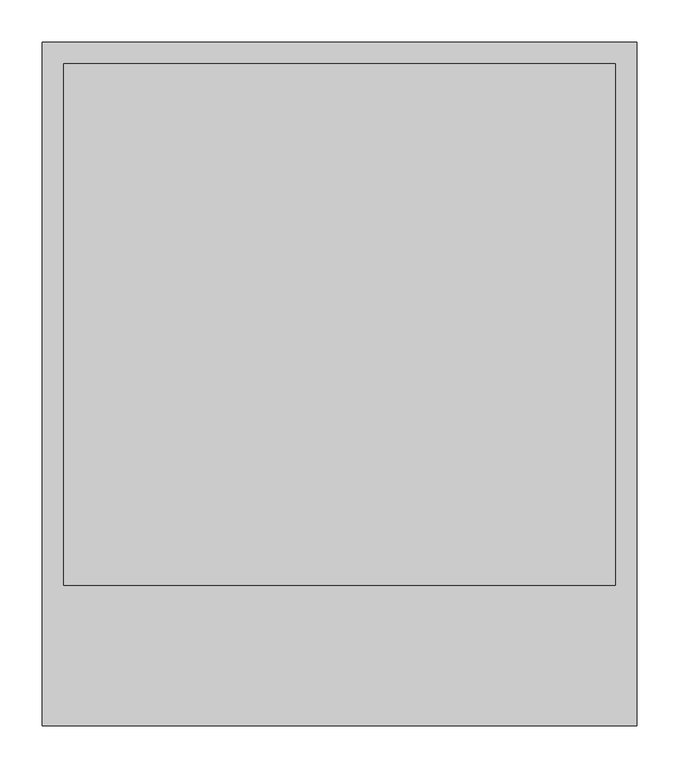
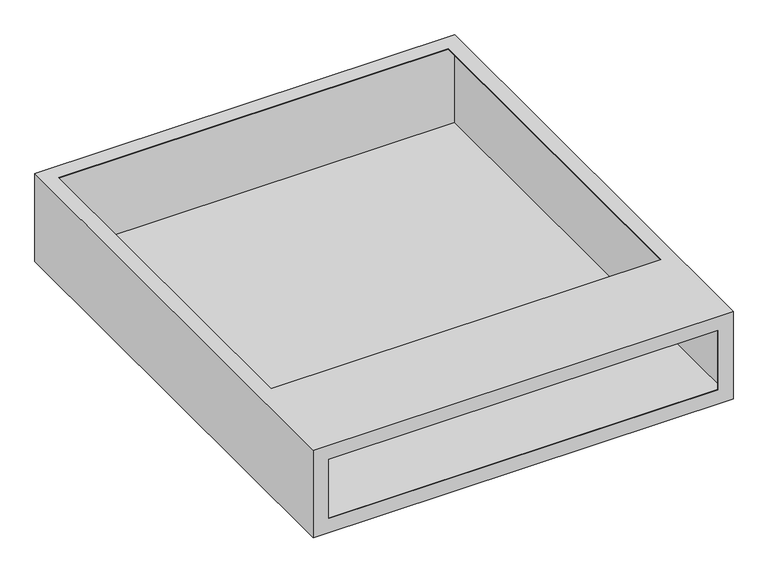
"""IFC4 building model written with IfcOpenShell, lengths in millimetres: valve geometry, USYSTEMS_Коллекторный шкаф_Накладной : 705x160 мм."""

import ifcopenshell
import ifcopenshell.guid

model = None  # the IFC model being written
_history = None  # IfcOwnerHistory: only IFC2X3 demands one
_inside = {}  # id of a spatial element -> (the spatial element, [elements in it])
_under = {}  # id of a project, library or spatial element -> (it, [spatial elements below it])
_declared = {}  # id of a project -> (the project, [libraries it declares])
_typed = {}  # id of a type object -> (the type object, [elements of that type])
_made_of = {}  # id of a material, layer set ... -> (it, [elements and type objects made of it])


def new_model(schema):
    """Start an empty IFC model of exactly this schema.

    Asked for "IFC4X3", IfcOpenShell would pick the latest addendum, in which some entities
    have other attributes; the version numbers below select the first issue.
    IFC2X3 requires an IfcOwnerHistory on every rooted entity: one is made here for all.
    """
    global model, _history
    if schema == "IFC4X3":
        model = ifcopenshell.file(schema_version=(4, 3, 0, 0))
    else:
        model = ifcopenshell.file(schema=schema)
    _inside.clear()
    _under.clear()
    _declared.clear()
    _typed.clear()
    _made_of.clear()
    _history = None
    if model.schema == "IFC2X3":
        org = make("IfcOrganization", Name="unknown")
        user = make(
            "IfcPersonAndOrganization",
            ThePerson=make("IfcPerson", FamilyName="unknown"),
            TheOrganization=org,
        )
        app = make(
            "IfcApplication",
            ApplicationDeveloper=org,
            Version="unknown",
            ApplicationFullName="unknown",
            ApplicationIdentifier="unknown",
        )
        _history = make(
            "IfcOwnerHistory",
            OwningUser=user,
            OwningApplication=app,
            ChangeAction="ADDED",
            CreationDate=0,
        )
    return model


def make(cls, **values):
    """One entity of the class cls with the attributes given. An attribute that is None is left unset."""
    return model.create_entity(
        cls, **{name: value for name, value in values.items() if value is not None}
    )


def rooted(cls, **values):
    """An entity with a GlobalId (a new one), such as an element, a storey or a relation."""
    return make(cls, GlobalId=ifcopenshell.guid.new(), OwnerHistory=_history, **values)


def si_unit(unit_type, name, prefix=None):
    """IfcSIUnit, for example si_unit("LENGTHUNIT", "METRE", prefix="MILLI")."""
    return make("IfcSIUnit", UnitType=unit_type, Prefix=prefix, Name=name)


def assignment(units):
    """IfcUnitAssignment: the units of a project."""
    return None if units is None else make("IfcUnitAssignment", Units=units)


def point(xyz):
    """IfcCartesianPoint."""
    return None if xyz is None else make("IfcCartesianPoint", Coordinates=xyz)


def direction(xyz):
    """IfcDirection."""
    return None if xyz is None else make("IfcDirection", DirectionRatios=xyz)


def frame(location, z_axis=None, x_axis=None):
    """IfcAxis2Placement3D, a coordinate frame: its origin and axes. An axis left out is left unset."""
    return make(
        "IfcAxis2Placement3D",
        Location=point(location),
        Axis=direction(z_axis),
        RefDirection=direction(x_axis),
    )


def origin():
    """The frame at (0, 0, 0) with its axes left unset."""
    return frame((0.0, 0.0, 0.0))


def place(relative_to, where):
    """IfcLocalPlacement: puts the frame where relative to a parent placement (None: the world)."""
    return make(
        "IfcLocalPlacement", PlacementRelTo=relative_to, RelativePlacement=where
    )


def context(
    kind, dimensions, precision=None, world=None, true_north=None, identifier=None
):
    """IfcGeometricRepresentationContext, for example the 3D "Model" context."""
    return make(
        "IfcGeometricRepresentationContext",
        ContextIdentifier=identifier,
        ContextType=kind,
        CoordinateSpaceDimension=dimensions,
        Precision=precision,
        WorldCoordinateSystem=world,
        TrueNorth=true_north,
    )


def project(units=None, contexts=None):
    """IfcProject with its units and contexts."""
    return rooted(
        "IfcProject",
        Name="project",
        RepresentationContexts=contexts,
        UnitsInContext=assignment(units),
    )


def spatial(cls, under=None, at=None, **own):
    """A site, building, storey or space (cls), placed at a placement, below another one or the project."""
    s = rooted(cls, ObjectPlacement=at, **own)
    if under is not None:
        _under.setdefault(under.id(), (under, []))[1].append(s)
    return s


def faces_of(points, faces, orient=None, outer=None):
    """IfcFace entities. A face is a list of loops; a loop is a list of indices into points, from 0.

    orient and outer hold one flag for each loop. By default every Orientation is true, the
    first loop of a face is its IfcFaceOuterBound and the others are IfcFaceBound.
    """
    made = []
    for i, loops in enumerate(faces):
        bounds = []
        for j, loop in enumerate(loops):
            is_outer = j == 0 if outer is None else outer[i][j]
            bounds.append(
                make(
                    "IfcFaceOuterBound" if is_outer else "IfcFaceBound",
                    Bound=make("IfcPolyLoop", Polygon=[points[k] for k in loop]),
                    Orientation=True if orient is None else orient[i][j],
                )
            )
        made.append(make("IfcFace", Bounds=bounds))
    return made


def faceted_brep(points, faces, orient=None, outer=None, voids=None):
    """IfcFacetedBrep: a solid bounded by flat faces; with voids (closed shells), ...WithVoids."""
    shared = [point(p) for p in points]
    hull = make("IfcClosedShell", CfsFaces=faces_of(shared, faces, orient, outer))
    if voids is None:
        return make("IfcFacetedBrep", Outer=hull)
    return make(
        "IfcFacetedBrepWithVoids",
        Outer=hull,
        Voids=[
            make(cls, CfsFaces=faces_of(shared, fs, o, b)) for cls, fs, o, b in voids
        ],
    )


def shape(context_of_items, identifier, shape_type, items):
    """IfcShapeRepresentation: the items that make up one representation, for example the "Body"."""
    return make(
        "IfcShapeRepresentation",
        ContextOfItems=context_of_items,
        RepresentationIdentifier=identifier,
        RepresentationType=shape_type,
        Items=items,
    )


def source(mapping_origin, context_of_items, identifier, shape_type, items):
    """IfcRepresentationMap: a shape defined once, which mapped items show again and again."""
    return make(
        "IfcRepresentationMap",
        MappingOrigin=mapping_origin,
        MappedRepresentation=shape(context_of_items, identifier, shape_type, items),
    )


def transform(
    local_origin,
    x_axis=None,
    y_axis=None,
    z_axis=None,
    scale=None,
    scale2=None,
    scale3=None,
    uniform=True,
):
    """IfcCartesianTransformationOperator3D, or its non-uniform kind. x_axis, y_axis, z_axis: its Axis1, 2, 3."""
    if uniform:
        return make(
            "IfcCartesianTransformationOperator3D",
            Axis1=direction(x_axis),
            Axis2=direction(y_axis),
            LocalOrigin=point(local_origin),
            Scale=scale,
            Axis3=direction(z_axis),
        )
    return make(
        "IfcCartesianTransformationOperator3DnonUniform",
        Axis1=direction(x_axis),
        Axis2=direction(y_axis),
        LocalOrigin=point(local_origin),
        Scale=scale,
        Axis3=direction(z_axis),
        Scale2=scale2,
        Scale3=scale3,
    )


def mapped(mapping_source, mapping_target):
    """IfcMappedItem: shows the shape of a source again, moved by a transform."""
    return make(
        "IfcMappedItem", MappingSource=mapping_source, MappingTarget=mapping_target
    )


def made_of(thing, what):
    """Note that an element or type object is made of a material, layer set ...; save() writes the relation."""
    if what is not None:
        _made_of.setdefault(what.id(), (what, []))[1].append(thing)
    return thing


def element(
    cls,
    number,
    at=None,
    inside=None,
    cuts=None,
    type_object=None,
    material=None,
    context=None,
    identifier="Body",
    shape_type=None,
    held_by="IfcProductDefinitionShape",
    body=None,
    shapes=None,
    **own,
):
    """One element of the class cls, such as IfcWall. Its Tag is "e" and its number.

    at: its placement. inside: the storey or other place that contains it. cuts: it is an
    opening in that element (IfcRelVoidsElement). A single representation is given by context,
    identifier, shape_type and body (its items); several are given by shapes. held_by: the class
    of the entity that holds the representations. save() writes the other relations.
    """
    e = rooted(cls, Tag="e%d" % number, ObjectPlacement=at, **own)
    if body is not None:
        shapes = [shape(context, identifier, shape_type, body)]
    if shapes is not None:
        e.Representation = make(held_by, Representations=shapes)
    if inside is not None:
        _inside.setdefault(inside.id(), (inside, []))[1].append(e)
    if cuts is not None:
        rooted(
            "IfcRelVoidsElement", RelatingBuildingElement=cuts, RelatedOpeningElement=e
        )
    if type_object is not None:
        _typed.setdefault(type_object.id(), (type_object, []))[1].append(e)
    return made_of(e, material)


def aggregate(whole, parts):
    """IfcRelAggregates: a whole, such as a stair, and the parts it consists of."""
    return rooted("IfcRelAggregates", RelatingObject=whole, RelatedObjects=parts)


def save(model, path):
    """Write the relations noted so far, then the file.

    IfcRelAggregates (storeys below a building ...), IfcRelContainedInSpatialStructure (elements
    in a storey), IfcRelDefinesByType, IfcRelAssociatesMaterial and IfcRelDeclares: one each for
    every whole, place, type object, material and project.
    """
    for whole, parts in _under.values():
        aggregate(whole, parts)
    for where, things in _inside.values():
        rooted(
            "IfcRelContainedInSpatialStructure",
            RelatedElements=things,
            RelatingStructure=where,
        )
    for kind, things in _typed.values():
        rooted("IfcRelDefinesByType", RelatedObjects=things, RelatingType=kind)
    for what, things in _made_of.values():
        rooted("IfcRelAssociatesMaterial", RelatedObjects=things, RelatingMaterial=what)
    for by, libraries in _declared.values():
        rooted("IfcRelDeclares", RelatingContext=by, RelatedDefinitions=libraries)
    model.write(path)


def valve_14c71488(model_context):
    return source(origin(), model_context, "Body", "Brep", [
        faceted_brep([(352.5, 405.0, 156.0), (-352.5, 405.0, 156.0), (-352.5, -405.0, 156.0), (352.5, -405.0, 156.0), (-327.0, 379.5, 156.0), (327.0, 379.5, 156.0), (327.0, -238.5, 156.0), (-327.0, -238.5, 156.0), (352.5, 405.0, 0.0), (352.5, -405.0, 0.0), (-352.5, -405.0, 0.0), (-352.5, 405.0, 0.0), (-327.0, -405.0, 130.5), (327.0, -405.0, 130.5), (327.0, -405.0, 25.5), (-327.0, -405.0, 25.5), (-327.0, 379.5, 155.0), (327.0, 379.5, 155.0), (-327.0, -238.5, 155.0), (327.0, -238.5, 155.0), (351.5, 404.0, 155.0), (351.5, -404.0, 155.0), (-351.5, -404.0, 155.0), (-351.5, 404.0, 155.0), (351.5, 404.0, 1.0), (-351.5, 404.0, 1.0), (-351.5, -404.0, 1.0), (351.5, -404.0, 1.0), (327.0, -404.0, 130.5), (-327.0, -404.0, 130.5), (-327.0, -404.0, 25.5), (327.0, -404.0, 25.5)], [[[0, 1, 2, 3], [4, 5, 6, 7]], [[8, 9, 10, 11]], [[1, 0, 8, 11]], [[2, 1, 11, 10]], [[3, 2, 10, 9], [12, 13, 14, 15]], [[0, 3, 9, 8]], [[4, 16, 17, 5]], [[16, 4, 7, 18]], [[18, 7, 6, 19]], [[5, 17, 19, 6]], [[20, 21, 22, 23], [17, 16, 18, 19]], [[24, 25, 26, 27]], [[20, 23, 25, 24]], [[23, 22, 26, 25]], [[22, 21, 27, 26], [28, 29, 30, 31]], [[21, 20, 24, 27]], [[28, 13, 12, 29]], [[29, 12, 15, 30]], [[30, 15, 14, 31]], [[13, 28, 31, 14]]]),
    ])


if __name__ == "__main__":
    model = new_model("IFC4")
    model_context = context("Model", 3, world=origin())
    ifc_project = project(units=[si_unit("LENGTHUNIT", "METRE", prefix="MILLI")], contexts=[model_context])
    site = spatial("IfcSite", under=ifc_project)
    building = spatial("IfcBuilding", under=site)
    placement = place(None, origin())
    valve_shape = valve_14c71488(model_context)
    element("IfcValve", 1, ObjectType="USYSTEMS_Коллекторный шкаф_Накладной : 705x160 мм", at=placement, inside=building, context=model_context, shape_type="MappedRepresentation", body=[
        mapped(valve_shape, transform((0.0, 0.0, 0.0), x_axis=(1.0, 0.0, 0.0), y_axis=(0.0, 1.0, 0.0), z_axis=(0.0, 0.0, 1.0))),
    ])
    save(model, "model.ifc")
